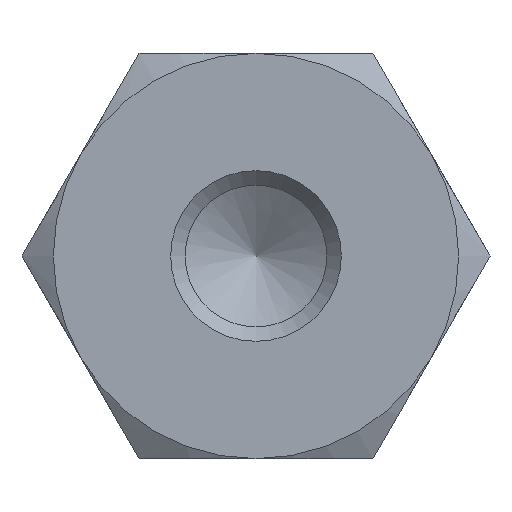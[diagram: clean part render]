
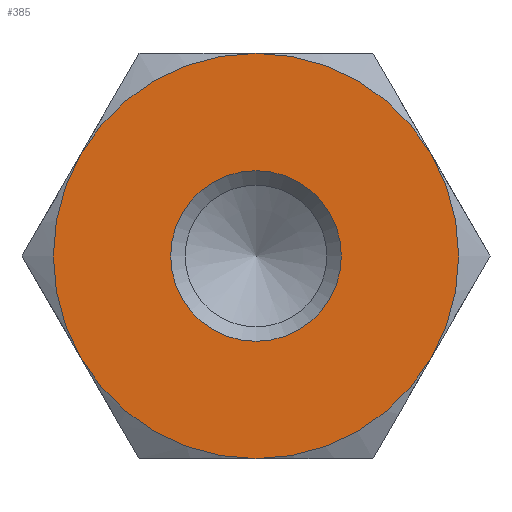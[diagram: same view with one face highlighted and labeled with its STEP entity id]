
A CAD part, front view. The second image highlights one B-rep face of the part: STEP entity #385.
In plain terms, the highlighted planar face has unit normal (0, -1, 0).
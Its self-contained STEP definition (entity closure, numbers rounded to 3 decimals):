
#164=ORIENTED_EDGE('',*,*,#224,.F.);
#165=ORIENTED_EDGE('',*,*,#219,.T.);
#166=ORIENTED_EDGE('',*,*,#223,.T.);
#167=ORIENTED_EDGE('',*,*,#222,.T.);
#168=ORIENTED_EDGE('',*,*,#221,.T.);
#169=ORIENTED_EDGE('',*,*,#225,.T.);
#170=ORIENTED_EDGE('',*,*,#220,.T.);
#219=EDGE_CURVE('',#248,#250,#270,.T.);
#220=EDGE_CURVE('',#246,#248,#271,.T.);
#221=EDGE_CURVE('',#254,#255,#272,.T.);
#222=EDGE_CURVE('',#252,#254,#273,.T.);
#223=EDGE_CURVE('',#250,#252,#274,.T.);
#224=EDGE_CURVE('',#256,#256,#275,.T.);
#225=EDGE_CURVE('',#255,#246,#276,.T.);
#246=VERTEX_POINT('',#620);
#248=VERTEX_POINT('',#632);
#250=VERTEX_POINT('',#644);
#252=VERTEX_POINT('',#656);
#254=VERTEX_POINT('',#668);
#255=VERTEX_POINT('',#678);
#256=VERTEX_POINT('',#695);
#270=CIRCLE('',#431,9.5);
#271=CIRCLE('',#433,9.5);
#272=CIRCLE('',#435,9.5);
#273=CIRCLE('',#437,9.5);
#274=CIRCLE('',#439,9.5);
#275=CIRCLE('',#441,4.);
#276=CIRCLE('',#442,9.5);
#305=EDGE_LOOP('',(#164));
#306=EDGE_LOOP('',(#165,#166,#167,#168,#169,#170));
#339=FACE_BOUND('',#305,.T.);
#340=FACE_BOUND('',#306,.T.);
#362=PLANE('',#440);
#385=ADVANCED_FACE('',(#339,#340),#362,.F.);
#431=AXIS2_PLACEMENT_3D('',#684,#525,#526);
#433=AXIS2_PLACEMENT_3D('',#686,#529,#530);
#435=AXIS2_PLACEMENT_3D('',#688,#533,#534);
#437=AXIS2_PLACEMENT_3D('',#690,#537,#538);
#439=AXIS2_PLACEMENT_3D('',#692,#541,#542);
#440=AXIS2_PLACEMENT_3D('',#693,#543,#544);
#441=AXIS2_PLACEMENT_3D('',#694,#545,#546);
#442=AXIS2_PLACEMENT_3D('',#696,#547,#548);
#525=DIRECTION('',(0.,-1.,0.));
#526=DIRECTION('',(0.,0.,-1.));
#529=DIRECTION('',(0.,-1.,0.));
#530=DIRECTION('',(0.,0.,-1.));
#533=DIRECTION('',(0.,-1.,0.));
#534=DIRECTION('',(0.,0.,-1.));
#537=DIRECTION('',(0.,-1.,0.));
#538=DIRECTION('',(0.,0.,-1.));
#541=DIRECTION('',(0.,-1.,0.));
#542=DIRECTION('',(0.,0.,-1.));
#543=DIRECTION('',(0.,1.,0.));
#544=DIRECTION('',(0.,0.,1.));
#545=DIRECTION('',(0.,-1.,0.));
#546=DIRECTION('',(0.,0.,-1.));
#547=DIRECTION('',(0.,-1.,0.));
#548=DIRECTION('',(0.,0.,-1.));
#620=CARTESIAN_POINT('',(-8.227,0.,-4.75));
#632=CARTESIAN_POINT('',(0.,0.,-9.5));
#644=CARTESIAN_POINT('',(8.227,0.,-4.75));
#656=CARTESIAN_POINT('',(8.227,0.,4.75));
#668=CARTESIAN_POINT('',(0.,0.,9.5));
#678=CARTESIAN_POINT('',(-8.227,0.,4.75));
#684=CARTESIAN_POINT('',(0.,0.,0.));
#686=CARTESIAN_POINT('',(0.,0.,0.));
#688=CARTESIAN_POINT('',(0.,0.,0.));
#690=CARTESIAN_POINT('',(0.,0.,0.));
#692=CARTESIAN_POINT('',(0.,0.,0.));
#693=CARTESIAN_POINT('',(9.5,0.,0.));
#694=CARTESIAN_POINT('',(0.,0.,0.));
#695=CARTESIAN_POINT('',(0.,0.,-4.));
#696=CARTESIAN_POINT('',(0.,0.,0.));
